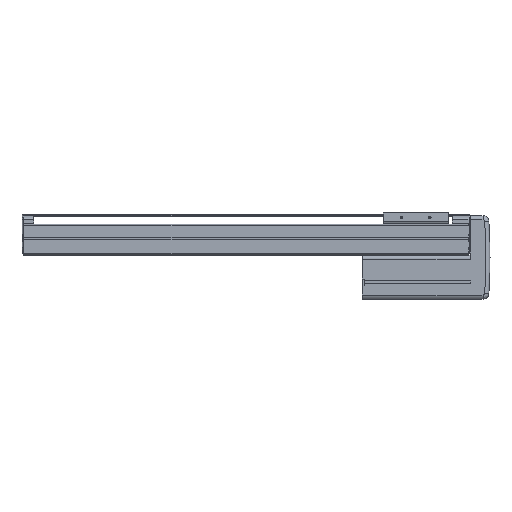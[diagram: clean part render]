
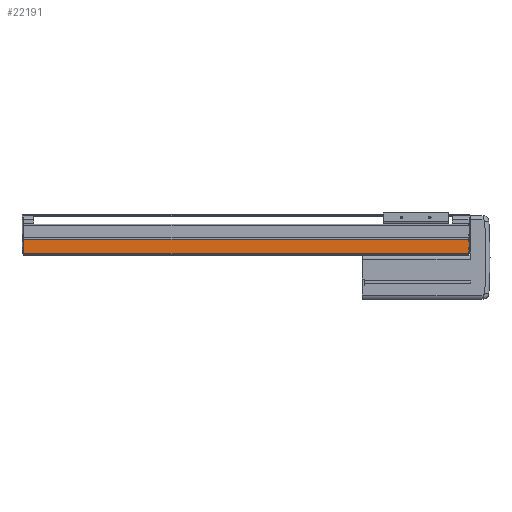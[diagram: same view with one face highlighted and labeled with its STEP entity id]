
A CAD part, top view. The second image highlights one B-rep face of the part: STEP entity #22191.
In plain terms, the highlighted planar face has unit normal (0, 0, 1).
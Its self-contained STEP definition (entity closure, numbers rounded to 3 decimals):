
#5488=DIRECTION('',(1.,0.,0.));
#5489=VECTOR('',#5488,0.7);
#5490=CARTESIAN_POINT('',(791.,14.,39.));
#5491=LINE('',#5490,#5489);
#5496=DIRECTION('',(0.,1.,0.));
#5497=VECTOR('',#5496,3.9);
#5498=CARTESIAN_POINT('',(791.,25.,39.));
#5499=LINE('',#5498,#5497);
#5500=DIRECTION('',(0.,1.,0.));
#5501=VECTOR('',#5500,9.5);
#5502=CARTESIAN_POINT('',(791.,4.5,39.));
#5503=LINE('',#5502,#5501);
#5504=DIRECTION('',(0.,-1.,0.));
#5505=VECTOR('',#5504,24.4);
#5506=CARTESIAN_POINT('',(0.,28.9,39.));
#5507=LINE('',#5506,#5505);
#5517=DIRECTION('',(-1.,0.,0.));
#5518=VECTOR('',#5517,0.7);
#5519=CARTESIAN_POINT('',(791.7,25.,39.));
#5520=LINE('',#5519,#5518);
#6195=DIRECTION('',(0.,1.,0.));
#6196=VECTOR('',#6195,11.);
#6197=CARTESIAN_POINT('',(791.7,14.,39.));
#6198=LINE('',#6197,#6196);
#6297=DIRECTION('',(1.,0.,0.));
#6298=VECTOR('',#6297,791.);
#6299=CARTESIAN_POINT('',(0.,4.5,39.));
#6300=LINE('',#6299,#6298);
#9642=DIRECTION('',(-1.,0.,0.));
#9643=VECTOR('',#9642,791.);
#9644=CARTESIAN_POINT('',(791.,28.9,39.));
#9645=LINE('',#9644,#9643);
#13119=CARTESIAN_POINT('',(0.,4.5,39.));
#13120=VERTEX_POINT('',#13119);
#13121=CARTESIAN_POINT('',(0.,28.9,39.));
#13122=VERTEX_POINT('',#13121);
#13235=CARTESIAN_POINT('',(791.,28.9,39.));
#13236=VERTEX_POINT('',#13235);
#13238=CARTESIAN_POINT('',(791.,4.5,39.));
#13240=VERTEX_POINT('',#13238);
#14130=CARTESIAN_POINT('',(791.7,14.,39.));
#14131=CARTESIAN_POINT('',(791.7,25.,39.));
#14132=VERTEX_POINT('',#14130);
#14133=VERTEX_POINT('',#14131);
#14752=CARTESIAN_POINT('',(791.,14.,39.));
#14753=VERTEX_POINT('',#14752);
#14754=CARTESIAN_POINT('',(791.,25.,39.));
#14756=VERTEX_POINT('',#14754);
#22172=CARTESIAN_POINT('',(395.5,16.7,39.));
#22173=DIRECTION('',(0.,0.,1.));
#22174=DIRECTION('',(0.,-1.,0.));
#22175=AXIS2_PLACEMENT_3D('',#22172,#22173,#22174);
#22176=PLANE('',#22175);
#22177=ORIENTED_EDGE('',*,*,#20043,.F.);
#22179=ORIENTED_EDGE('',*,*,#22178,.F.);
#22181=ORIENTED_EDGE('',*,*,#22180,.F.);
#22182=ORIENTED_EDGE('',*,*,#22164,.F.);
#22183=ORIENTED_EDGE('',*,*,#20154,.F.);
#22185=ORIENTED_EDGE('',*,*,#22184,.F.);
#22186=ORIENTED_EDGE('',*,*,#19543,.F.);
#22188=ORIENTED_EDGE('',*,*,#22187,.F.);
#22189=EDGE_LOOP('',(#22177,#22179,#22181,#22182,#22183,#22185,#22186,#22188));
#22190=FACE_OUTER_BOUND('',#22189,.F.);
#22191=ADVANCED_FACE('',(#22190),#22176,.T.);
#19543=EDGE_CURVE('',#13122,#13120,#5507,.T.);
#20043=EDGE_CURVE('',#14756,#13236,#5499,.T.);
#20154=EDGE_CURVE('',#13240,#14753,#5503,.T.);
#22164=EDGE_CURVE('',#14753,#14132,#5491,.T.);
#22178=EDGE_CURVE('',#14133,#14756,#5520,.T.);
#22180=EDGE_CURVE('',#14132,#14133,#6198,.T.);
#22184=EDGE_CURVE('',#13120,#13240,#6300,.T.);
#22187=EDGE_CURVE('',#13236,#13122,#9645,.T.);
